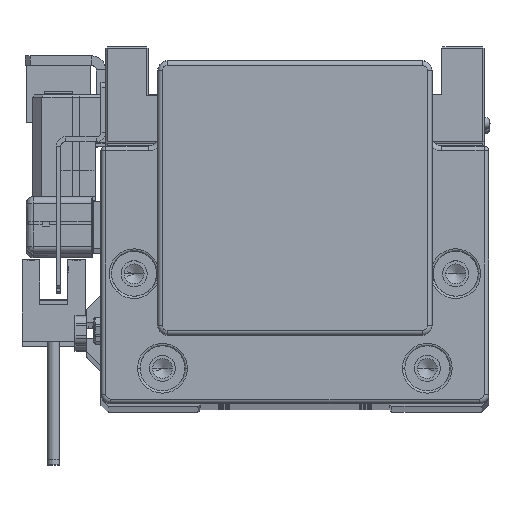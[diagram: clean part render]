
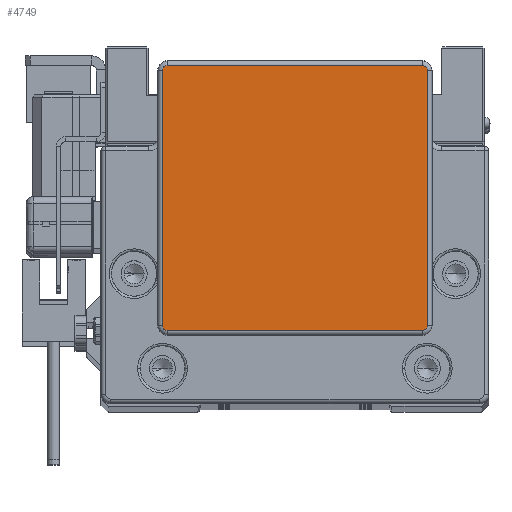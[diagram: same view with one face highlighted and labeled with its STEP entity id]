
A CAD part, top view. The second image highlights one B-rep face of the part: STEP entity #4749.
In plain terms, the highlighted planar face has unit normal (0, 0, 1).
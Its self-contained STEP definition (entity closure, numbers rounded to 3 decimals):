
#1730 = CARTESIAN_POINT ( 'NONE',  ( 27., -20.75, 17. ) ) ;
#2726 = VERTEX_POINT ( 'NONE', #6439 ) ;
#4749 = ADVANCED_FACE ( 'NONE', ( #37854 ), #50595, .T. ) ;
#4882 = CIRCLE ( 'NONE', #33689, 1. ) ;
#4996 = VERTEX_POINT ( 'NONE', #36664 ) ;
#5721 = VERTEX_POINT ( 'NONE', #31396 ) ;
#5765 = EDGE_CURVE ( 'NONE', #5721, #14912, #47820, .T. ) ;
#6439 = CARTESIAN_POINT ( 'NONE',  ( -28., -19.75, 17. ) ) ;
#6585 = CARTESIAN_POINT ( 'NONE',  ( -27., -20.75, 17. ) ) ;
#7228 = EDGE_LOOP ( 'NONE', ( #52221, #42554, #11663, #41707, #29427, #43858, #45083, #17376 ) ) ;
#7693 = DIRECTION ( 'NONE',  ( 0., 0., 1. ) ) ;
#8748 = EDGE_CURVE ( 'NONE', #4996, #5721, #34215, .T. ) ;
#8995 = AXIS2_PLACEMENT_3D ( 'NONE', #12825, #17586, #13372 ) ;
#9377 = DIRECTION ( 'NONE',  ( 0., 0., 1. ) ) ;
#9958 = DIRECTION ( 'NONE',  ( 1., 0., 0. ) ) ;
#10204 = EDGE_CURVE ( 'NONE', #47192, #30183, #27399, .T. ) ;
#10531 = DIRECTION ( 'NONE',  ( -1., 0., 0. ) ) ;
#11346 = DIRECTION ( 'NONE',  ( 0., 0., 1. ) ) ;
#11663 = ORIENTED_EDGE ( 'NONE', *, *, #54189, .T. ) ;
#11749 = LINE ( 'NONE', #45889, #25596 ) ;
#12825 = CARTESIAN_POINT ( 'NONE',  ( 27., -19.75, 17. ) ) ;
#12996 = EDGE_CURVE ( 'NONE', #2726, #47192, #4882, .T. ) ;
#13372 = DIRECTION ( 'NONE',  ( 1., 0., 0. ) ) ;
#14493 = CARTESIAN_POINT ( 'NONE',  ( -27., 35.25, 17. ) ) ;
#14765 = EDGE_CURVE ( 'NONE', #33963, #39036, #47363, .T. ) ;
#14912 = VERTEX_POINT ( 'NONE', #49381 ) ;
#15627 = EDGE_CURVE ( 'NONE', #14912, #33963, #44955, .T. ) ;
#17278 = CARTESIAN_POINT ( 'NONE',  ( 28., 34.25, 17. ) ) ;
#17376 = ORIENTED_EDGE ( 'NONE', *, *, #5765, .T. ) ;
#17586 = DIRECTION ( 'NONE',  ( 0., 0., 1. ) ) ;
#20655 = CARTESIAN_POINT ( 'NONE',  ( -27., -19.75, 17. ) ) ;
#20992 = DIRECTION ( 'NONE',  ( 0., 0., 1. ) ) ;
#22318 = DIRECTION ( 'NONE',  ( 1., 0., 0. ) ) ;
#24003 = DIRECTION ( 'NONE',  ( 1., 0., 0. ) ) ;
#24260 = CARTESIAN_POINT ( 'NONE',  ( 27., -20.75, 17. ) ) ;
#24411 = DIRECTION ( 'NONE',  ( 0., -1., 0. ) ) ;
#24599 = VECTOR ( 'NONE', #46353, 1000. ) ;
#24751 = CARTESIAN_POINT ( 'NONE',  ( -27., 35.25, 17. ) ) ;
#25596 = VECTOR ( 'NONE', #24411, 1000. ) ;
#27399 = LINE ( 'NONE', #1730, #32717 ) ;
#29427 = ORIENTED_EDGE ( 'NONE', *, *, #10204, .T. ) ;
#29784 = AXIS2_PLACEMENT_3D ( 'NONE', #37551, #11346, #24003 ) ;
#30122 = CARTESIAN_POINT ( 'NONE',  ( -28., 34.25, 17. ) ) ;
#30183 = VERTEX_POINT ( 'NONE', #24260 ) ;
#31396 = CARTESIAN_POINT ( 'NONE',  ( 28., 34.25, 17. ) ) ;
#31478 = CIRCLE ( 'NONE', #8995, 1. ) ;
#32717 = VECTOR ( 'NONE', #9958, 1000. ) ;
#33041 = EDGE_CURVE ( 'NONE', #30183, #4996, #31478, .T. ) ;
#33689 = AXIS2_PLACEMENT_3D ( 'NONE', #55412, #20992, #51199 ) ;
#33963 = VERTEX_POINT ( 'NONE', #24751 ) ;
#34215 = LINE ( 'NONE', #17278, #24599 ) ;
#36664 = CARTESIAN_POINT ( 'NONE',  ( 28., -19.75, 17. ) ) ;
#37551 = CARTESIAN_POINT ( 'NONE',  ( 27., 34.25, 17. ) ) ;
#37854 = FACE_OUTER_BOUND ( 'NONE', #7228, .T. ) ;
#39036 = VERTEX_POINT ( 'NONE', #30122 ) ;
#41707 = ORIENTED_EDGE ( 'NONE', *, *, #12996, .T. ) ;
#41818 = DIRECTION ( 'NONE',  ( 1., 0., 0. ) ) ;
#42554 = ORIENTED_EDGE ( 'NONE', *, *, #14765, .T. ) ;
#43771 = AXIS2_PLACEMENT_3D ( 'NONE', #48033, #9377, #22318 ) ;
#43858 = ORIENTED_EDGE ( 'NONE', *, *, #33041, .T. ) ;
#44955 = LINE ( 'NONE', #14493, #49222 ) ;
#45083 = ORIENTED_EDGE ( 'NONE', *, *, #8748, .T. ) ;
#45889 = CARTESIAN_POINT ( 'NONE',  ( -28., -19.75, 17. ) ) ;
#46353 = DIRECTION ( 'NONE',  ( 0., 1., 0. ) ) ;
#47192 = VERTEX_POINT ( 'NONE', #6585 ) ;
#47363 = CIRCLE ( 'NONE', #43771, 1. ) ;
#47820 = CIRCLE ( 'NONE', #29784, 1. ) ;
#48033 = CARTESIAN_POINT ( 'NONE',  ( -27., 34.25, 17. ) ) ;
#49222 = VECTOR ( 'NONE', #10531, 1000. ) ;
#49381 = CARTESIAN_POINT ( 'NONE',  ( 27., 35.25, 17. ) ) ;
#50595 = PLANE ( 'NONE',  #51450 ) ;
#51199 = DIRECTION ( 'NONE',  ( 1., 0., 0. ) ) ;
#51450 = AXIS2_PLACEMENT_3D ( 'NONE', #20655, #7693, #41818 ) ;
#52221 = ORIENTED_EDGE ( 'NONE', *, *, #15627, .T. ) ;
#54189 = EDGE_CURVE ( 'NONE', #39036, #2726, #11749, .T. ) ;
#55412 = CARTESIAN_POINT ( 'NONE',  ( -27., -19.75, 17. ) ) ;
